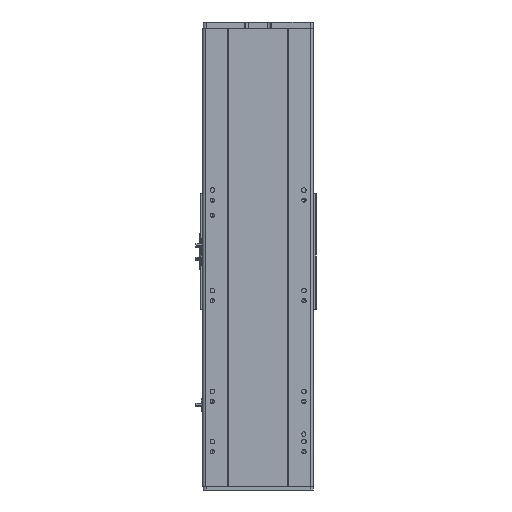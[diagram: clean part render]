
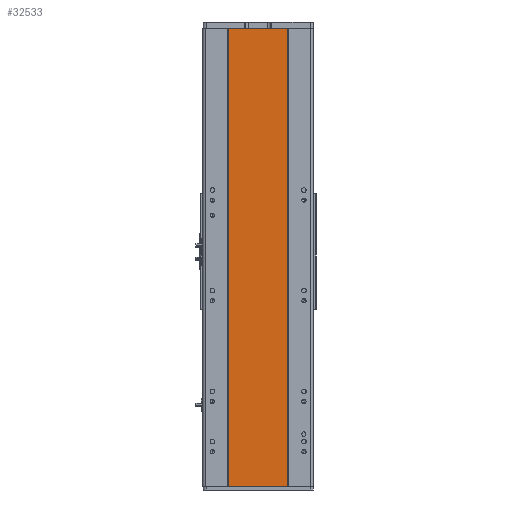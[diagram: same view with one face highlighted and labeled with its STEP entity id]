
A CAD part, front view. The second image highlights one B-rep face of the part: STEP entity #32533.
In plain terms, the highlighted planar face has unit normal (0, -1, 0).
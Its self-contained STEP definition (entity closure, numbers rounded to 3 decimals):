
#381 = CARTESIAN_POINT ( 'NONE',  ( -59., 1., 455.5 ) ) ;
#3036 = CARTESIAN_POINT ( 'NONE',  ( -59., 1., -455.5 ) ) ;
#3337 = DIRECTION ( 'NONE',  ( 1., 0., 0. ) ) ;
#5605 = DIRECTION ( 'NONE',  ( 0., 0., -1. ) ) ;
#7024 = ORIENTED_EDGE ( 'NONE', *, *, #33545, .F. ) ;
#8514 = CARTESIAN_POINT ( 'NONE',  ( 59., 1., -455.5 ) ) ;
#8948 = DIRECTION ( 'NONE',  ( -1., 0., 0. ) ) ;
#10808 = EDGE_CURVE ( 'NONE', #25281, #24421, #17656, .T. ) ;
#11382 = LINE ( 'NONE', #14719, #30752 ) ;
#11849 = FACE_OUTER_BOUND ( 'NONE', #13389, .T. ) ;
#13389 = EDGE_LOOP ( 'NONE', ( #26211, #26776, #7024, #31995 ) ) ;
#13993 = LINE ( 'NONE', #31940, #21030 ) ;
#14420 = CARTESIAN_POINT ( 'NONE',  ( -59., 1., 455.5 ) ) ;
#14719 = CARTESIAN_POINT ( 'NONE',  ( -59., 1., -455.5 ) ) ;
#15166 = AXIS2_PLACEMENT_3D ( 'NONE', #25797, #20645, #8948 ) ;
#17656 = LINE ( 'NONE', #14420, #34746 ) ;
#17761 = DIRECTION ( 'NONE',  ( 1., 0., 0. ) ) ;
#20645 = DIRECTION ( 'NONE',  ( 0., 1., 0. ) ) ;
#21030 = VECTOR ( 'NONE', #17761, 1000. ) ;
#24421 = VERTEX_POINT ( 'NONE', #3036 ) ;
#25281 = VERTEX_POINT ( 'NONE', #381 ) ;
#25414 = CARTESIAN_POINT ( 'NONE',  ( 59., 1., 455.5 ) ) ;
#25797 = CARTESIAN_POINT ( 'NONE',  ( -59., 1., 455.5 ) ) ;
#26211 = ORIENTED_EDGE ( 'NONE', *, *, #33036, .T. ) ;
#26285 = PLANE ( 'NONE',  #15166 ) ;
#26776 = ORIENTED_EDGE ( 'NONE', *, *, #28423, .F. ) ;
#27921 = CARTESIAN_POINT ( 'NONE',  ( 59., 1., 455.5 ) ) ;
#27991 = VECTOR ( 'NONE', #5605, 1000. ) ;
#28423 = EDGE_CURVE ( 'NONE', #31926, #34661, #35455, .T. ) ;
#30752 = VECTOR ( 'NONE', #3337, 1000. ) ;
#30870 = DIRECTION ( 'NONE',  ( 0., 0., -1. ) ) ;
#31926 = VERTEX_POINT ( 'NONE', #27921 ) ;
#31940 = CARTESIAN_POINT ( 'NONE',  ( -59., 1., 455.5 ) ) ;
#31995 = ORIENTED_EDGE ( 'NONE', *, *, #10808, .T. ) ;
#32533 = ADVANCED_FACE ( 'NONE', ( #11849 ), #26285, .F. ) ;
#33036 = EDGE_CURVE ( 'NONE', #24421, #34661, #11382, .T. ) ;
#33545 = EDGE_CURVE ( 'NONE', #25281, #31926, #13993, .T. ) ;
#34661 = VERTEX_POINT ( 'NONE', #8514 ) ;
#34746 = VECTOR ( 'NONE', #30870, 1000. ) ;
#35455 = LINE ( 'NONE', #25414, #27991 ) ;
